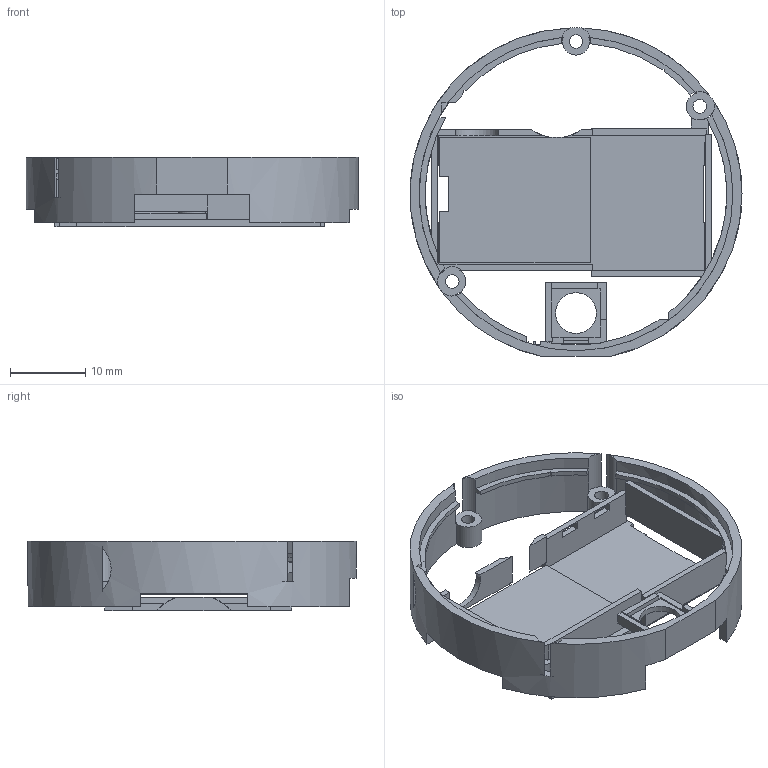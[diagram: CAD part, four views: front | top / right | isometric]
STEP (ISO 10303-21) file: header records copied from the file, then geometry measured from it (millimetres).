
FILE_DESCRIPTION(('Open CASCADE Model'),'2;1');
FILE_NAME('Open CASCADE Shape Model','2026-09-25T10:24:49',('Author'),( 'Open CASCADE'),'Open CASCADE STEP processor 7.9','Open CASCADE 7.9' ,'Unknown');
FILE_SCHEMA(('AUTOMOTIVE_DESIGN { 1 0 10303 214 1 1 1 1 }'));
Length unit declared in the file: millimetre
Products named in the file (1): Open CASCADE STEP translator 7.9 4
Bounding box: 44 x 43.5 x 9.2 mm (x, y, z)
Volume: 2587.6 mm3; surface area: 5435.6 mm2
Topology: 1 solids, 1 shells, 207 faces, 659 edges, 439 vertices
Faces by surface type: plane 163, cylinder 44
Full cylindrical faces by diameter (mm): 1.8 x3, 5.4 x1
Entity records: 15595 total; most frequent: CARTESIAN_POINT 3339, DIRECTION 2036, ORIENTED_EDGE 1318, PCURVE 1318, DEFINITIONAL_REPRESENTATION 1318, LINE 1156, VECTOR 1156, EDGE_CURVE 659
